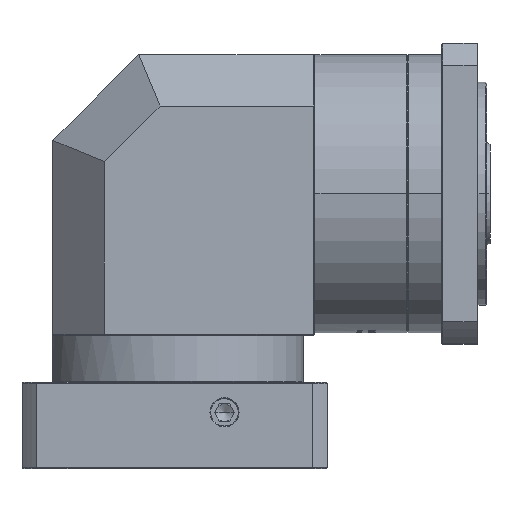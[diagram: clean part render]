
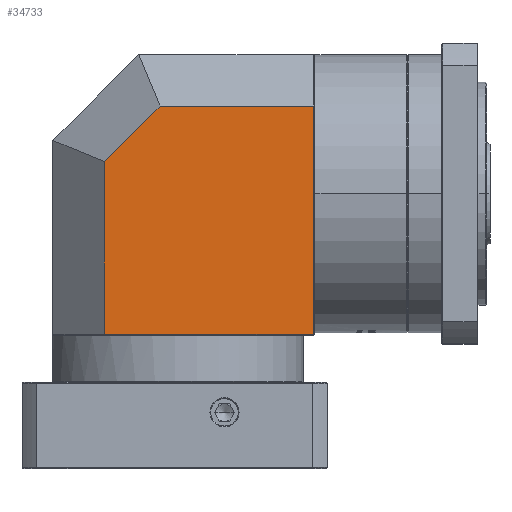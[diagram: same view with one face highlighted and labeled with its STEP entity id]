
A CAD part, top view. The second image highlights one B-rep face of the part: STEP entity #34733.
In plain terms, the highlighted planar face has unit normal (0, 0, 1).
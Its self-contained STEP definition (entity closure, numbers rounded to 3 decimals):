
#2330 = DIRECTION ( 'NONE',  ( 1., 0., 0. ) ) ;
#2830 = CARTESIAN_POINT ( 'NONE',  ( -55.915, -76.403, 348.967 ) ) ;
#8515 = VECTOR ( 'NONE', #66383, 1000. ) ;
#12905 = VERTEX_POINT ( 'NONE', #38058 ) ;
#14259 = CARTESIAN_POINT ( 'NONE',  ( -102.015, -76.403, 348.967 ) ) ;
#19599 = VECTOR ( 'NONE', #130068, 1000. ) ;
#22367 = LINE ( 'NONE', #35921, #104598 ) ;
#22980 = AXIS2_PLACEMENT_3D ( 'NONE', #2830, #93378, #2330 ) ;
#25526 = DIRECTION ( 'NONE',  ( 0., -1., 0. ) ) ;
#31527 = EDGE_CURVE ( 'NONE', #12905, #41237, #22367, .T. ) ;
#31619 = CARTESIAN_POINT ( 'NONE',  ( -102.015, -157.653, 348.967 ) ) ;
#34445 = EDGE_CURVE ( 'NONE', #104433, #39979, #71466, .T. ) ;
#34733 = ADVANCED_FACE ( 'NONE', ( #143493 ), #126456, .T. ) ;
#35921 = CARTESIAN_POINT ( 'NONE',  ( -55.915, -157.653, 348.967 ) ) ;
#37081 = EDGE_CURVE ( 'NONE', #12905, #72651, #121423, .T. ) ;
#38058 = CARTESIAN_POINT ( 'NONE',  ( 19.685, -157.653, 348.967 ) ) ;
#39979 = VERTEX_POINT ( 'NONE', #98157 ) ;
#40554 = ORIENTED_EDGE ( 'NONE', *, *, #31527, .F. ) ;
#41237 = VERTEX_POINT ( 'NONE', #31619 ) ;
#46051 = VECTOR ( 'NONE', #117698, 1000. ) ;
#48144 = CARTESIAN_POINT ( 'NONE',  ( -69.588, -24.653, 348.967 ) ) ;
#50333 = ORIENTED_EDGE ( 'NONE', *, *, #37081, .T. ) ;
#53190 = CARTESIAN_POINT ( 'NONE',  ( -69.588, -24.653, 348.967 ) ) ;
#54117 = ORIENTED_EDGE ( 'NONE', *, *, #34445, .T. ) ;
#58812 = DIRECTION ( 'NONE',  ( -1., 0., 0. ) ) ;
#66383 = DIRECTION ( 'NONE',  ( -0.707, -0.707, 0. ) ) ;
#68309 = ORIENTED_EDGE ( 'NONE', *, *, #101855, .T. ) ;
#71466 = LINE ( 'NONE', #53190, #8515 ) ;
#72651 = VERTEX_POINT ( 'NONE', #123135 ) ;
#74256 = LINE ( 'NONE', #94960, #46051 ) ;
#74901 = CARTESIAN_POINT ( 'NONE',  ( 19.685, -76.403, 348.967 ) ) ;
#84052 = EDGE_LOOP ( 'NONE', ( #40554, #50333, #68309, #54117, #91159 ) ) ;
#87388 = LINE ( 'NONE', #14259, #105024 ) ;
#91159 = ORIENTED_EDGE ( 'NONE', *, *, #91235, .T. ) ;
#91235 = EDGE_CURVE ( 'NONE', #39979, #41237, #87388, .T. ) ;
#93378 = DIRECTION ( 'NONE',  ( 0., 0., 1. ) ) ;
#94960 = CARTESIAN_POINT ( 'NONE',  ( -55.915, -24.653, 348.967 ) ) ;
#98157 = CARTESIAN_POINT ( 'NONE',  ( -102.015, -57.08, 348.967 ) ) ;
#101855 = EDGE_CURVE ( 'NONE', #72651, #104433, #74256, .T. ) ;
#104433 = VERTEX_POINT ( 'NONE', #48144 ) ;
#104598 = VECTOR ( 'NONE', #58812, 1000. ) ;
#105024 = VECTOR ( 'NONE', #25526, 1000. ) ;
#117698 = DIRECTION ( 'NONE',  ( -1., 0., 0. ) ) ;
#121423 = LINE ( 'NONE', #74901, #19599 ) ;
#123135 = CARTESIAN_POINT ( 'NONE',  ( 19.685, -24.653, 348.967 ) ) ;
#126456 = PLANE ( 'NONE',  #22980 ) ;
#130068 = DIRECTION ( 'NONE',  ( 0., 1., 0. ) ) ;
#143493 = FACE_OUTER_BOUND ( 'NONE', #84052, .T. ) ;
